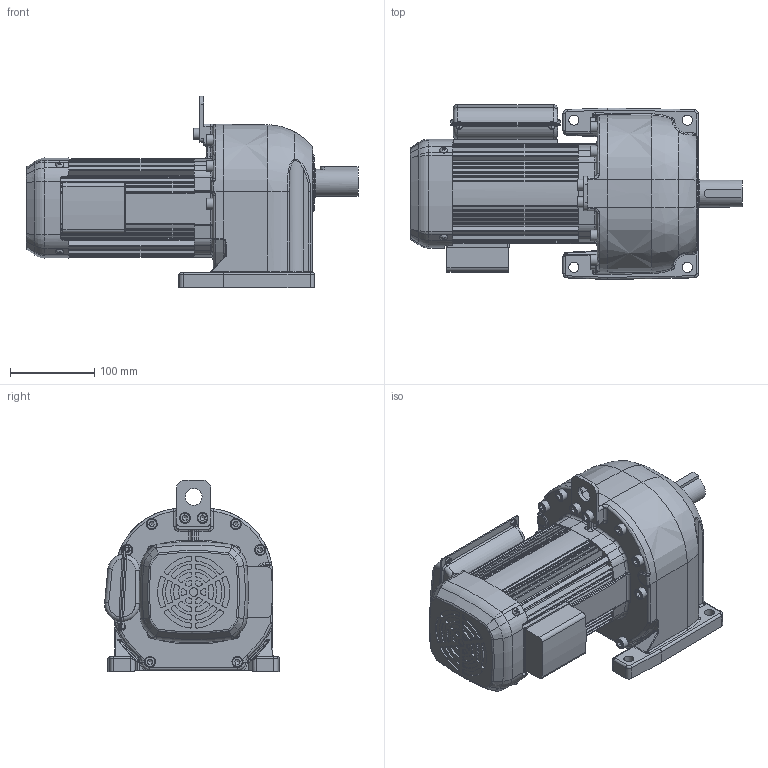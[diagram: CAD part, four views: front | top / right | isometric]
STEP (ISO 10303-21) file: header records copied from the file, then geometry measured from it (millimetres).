
FILE_DESCRIPTION( ( 'Unknown' ), '1' );
FILE_NAME( 'W:/gm/3D-WEB/GM-SS(単相)/完成品/パーツ/完成品/完成品(GM-SS_脚取付_0.4kW_ﾌﾞﾚｰｷ無_GM).stp', 'Unknown', ( 'Unknown' ), ( 'Unknown' ), 'PSStep 11.0', 'Unknown', ' ' );
FILE_SCHEMA( ( 'AUTOMOTIVE_DESIGN { 1 0 10303 214 1 1 1 1 }' ) );
Length unit declared in the file: millimetre
Products named in the file (5): P264486_端子箱ｹｰｽ+PF03387_端子箱ｶﾊﾞｰ(ﾌ
Bounding box: 395 x 208.05 x 228.28 mm (x, y, z)
Volume: 6211347.6 mm3; surface area: 537073.3 mm2
Topology: 5 solids, 48 shells, 1777 faces, 4383 edges, 2763 vertices
Faces by surface type: cylinder 741, plane 703, bspline 123, torus 104, cone 98, sphere 8
Full cylindrical faces by diameter (mm): 3.3 x6, 3.8 x8, 4 x4, 4.2 x4, 4.5 x10, 4.8 x10, 5 x2, 6.8 x11, 7 x6, 8 x12, 8.2 x1, 8.5 x3, 9 x8, 10 x11, 12 x5, 13 x10, 15 x1, 16 x2, 20 x1, 32 x1, 34 x1, 34.5 x1, 35 x1, 46 x1, 47 x2, 108 x1, 112 x1
Entity records: 80167 total; most frequent: CARTESIAN_POINT 25090, DIRECTION 8666, ORIENTED_EDGE 8060, EDGE_CURVE 4030, AXIS2_PLACEMENT_3D 3401, VERTEX_POINT 2673, EDGE_LOOP 2112, FACE_OUTER_BOUND 1925
